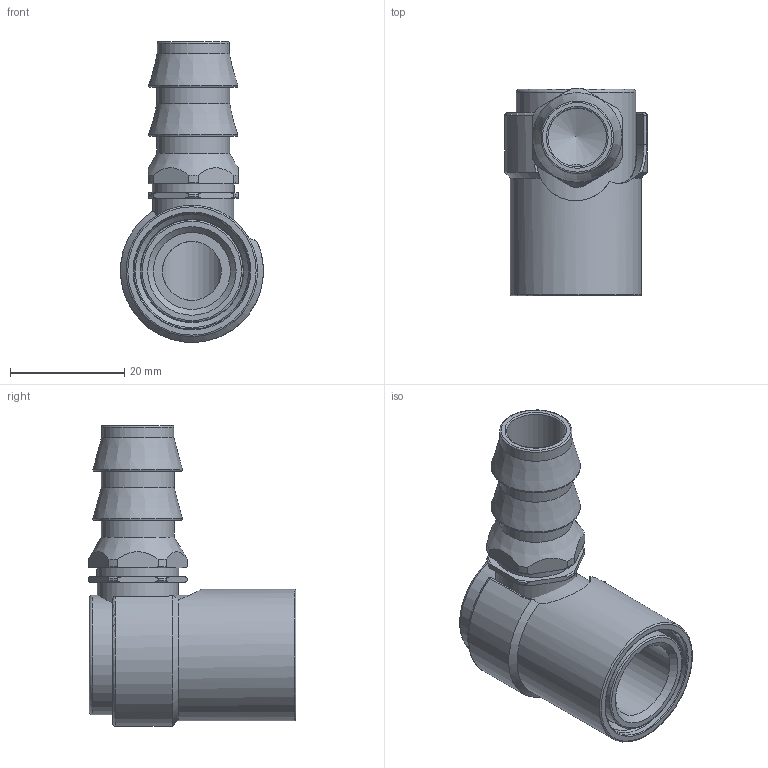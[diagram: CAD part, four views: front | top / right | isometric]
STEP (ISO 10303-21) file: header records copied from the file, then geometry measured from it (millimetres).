
FILE_DESCRIPTION(/* description */ (''),/* implementation_level */ '2;1');
FILE_NAME(/* name */ 'C:/Users/drich/Desktop/SJ300-8 v2.step',/* time_stamp */ '2019-12-29T15:44:21-06:00',/* author */ (''),/* organization */ (''),/* preprocessor_version */ 'ST-DEVELOPER v18',/* originating_system */ 'Autodesk Translation Framework v8.12.0.6',/* authorisation */ '');
FILE_SCHEMA (('AUTOMOTIVE_DESIGN { 1 0 10303 214 3 1 1 }'));
Length unit declared in the file: inch
Products named in the file (4): SJ300-8; body; SJ300 SLEEVE; CM308-PL BARB ONLY
Assembly tree (3 placements, depth 2):
  SJ300-8
    body
    SJ300 SLEEVE
    CM308-PL BARB ONLY
Bounding box: 25.05 x 36.4 x 52.74 mm (x, y, z)
Volume: 11901 mm3; surface area: 12090.8 mm2
Topology: 4 solids, 4 shells, 131 faces, 359 edges, 243 vertices
Faces by surface type: cylinder 42, torus 35, plane 31, cone 15, bspline 6, sphere 2
Full cylindrical faces by diameter (mm): 10.312 x3, 11.824 x1, 12.7 x1, 12.768 x2, 13.487 x2, 14.173 x1, 14.254 x2, 14.326 x1, 14.72 x2, 17.907 x1, 18.034 x1, 20.32 x1, 20.98 x1, 21.082 x1, 23.012 x1
Entity records: 5136 total; most frequent: CARTESIAN_POINT 1617, DIRECTION 749, ORIENTED_EDGE 716, EDGE_CURVE 358, AXIS2_PLACEMENT_3D 329, VERTEX_POINT 243, CIRCLE 197, EDGE_LOOP 147
